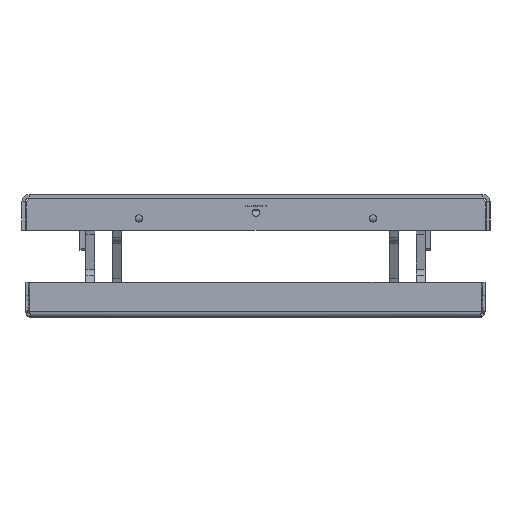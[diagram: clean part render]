
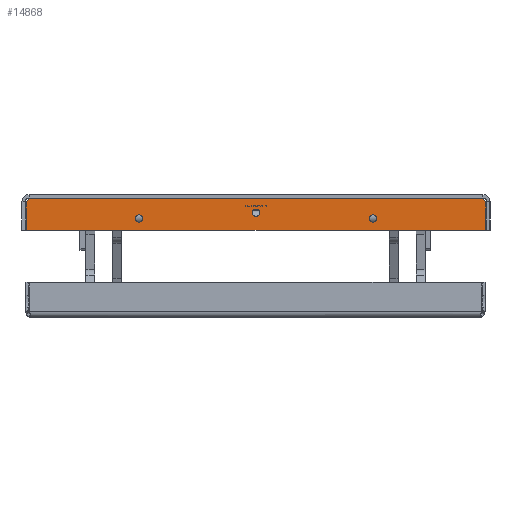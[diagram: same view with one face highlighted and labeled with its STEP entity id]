
A CAD part, left-side view. The second image highlights one B-rep face of the part: STEP entity #14868.
In plain terms, the highlighted planar face has unit normal (-1, 0, 0) as drawn and (0, 0, 1) by its records, which use the part's own axes.
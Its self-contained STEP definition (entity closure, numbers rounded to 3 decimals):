
#537=FACE_BOUND('',#2537,.T.);
#538=FACE_BOUND('',#2538,.T.);
#539=FACE_BOUND('',#2539,.T.);
#877=PLANE('',#16453);
#1589=FACE_OUTER_BOUND('',#2536,.T.);
#2536=EDGE_LOOP('',(#13114,#13115,#13116,#13117,#13118,#13119,#13120,#13121,
#13122,#13123,#13124,#13125));
#2537=EDGE_LOOP('',(#13126));
#2538=EDGE_LOOP('',(#13127));
#2539=EDGE_LOOP('',(#13128));
#3874=LINE('',#25292,#5201);
#3879=LINE('',#25306,#5206);
#3881=LINE('',#25310,#5208);
#3882=LINE('',#25314,#5209);
#3883=LINE('',#25318,#5210);
#3884=LINE('',#25320,#5211);
#5201=VECTOR('',#20322,10.);
#5206=VECTOR('',#20337,10.);
#5208=VECTOR('',#20341,10.);
#5209=VECTOR('',#20344,10.);
#5210=VECTOR('',#20347,10.);
#5211=VECTOR('',#20350,10.);
#5993=CIRCLE('',#16436,1.);
#6003=CIRCLE('',#16449,1.);
#6004=CIRCLE('',#16451,1.);
#6005=CIRCLE('',#16454,1.);
#6006=CIRCLE('',#16455,1.);
#6007=CIRCLE('',#16456,1.);
#6008=CIRCLE('',#16457,6.25);
#6009=CIRCLE('',#16458,6.25);
#6010=CIRCLE('',#16459,6.25);
#7268=VERTEX_POINT('',#25254);
#7269=VERTEX_POINT('',#25255);
#7285=VERTEX_POINT('',#25291);
#7286=VERTEX_POINT('',#25295);
#7287=VERTEX_POINT('',#25299);
#7288=VERTEX_POINT('',#25301);
#7289=VERTEX_POINT('',#25305);
#7290=VERTEX_POINT('',#25309);
#7291=VERTEX_POINT('',#25311);
#7292=VERTEX_POINT('',#25313);
#7293=VERTEX_POINT('',#25315);
#7294=VERTEX_POINT('',#25317);
#7295=VERTEX_POINT('',#25321);
#7296=VERTEX_POINT('',#25323);
#7297=VERTEX_POINT('',#25325);
#9254=EDGE_CURVE('',#7268,#7269,#5993,.T.);
#9272=EDGE_CURVE('',#7269,#7285,#3874,.T.);
#9274=EDGE_CURVE('',#7285,#7286,#6003,.T.);
#9277=EDGE_CURVE('',#7287,#7288,#6004,.T.);
#9279=EDGE_CURVE('',#7289,#7288,#3879,.T.);
#9281=EDGE_CURVE('',#7290,#7268,#3881,.T.);
#9282=EDGE_CURVE('',#7291,#7290,#6005,.T.);
#9283=EDGE_CURVE('',#7291,#7292,#3882,.T.);
#9284=EDGE_CURVE('',#7293,#7292,#6006,.T.);
#9285=EDGE_CURVE('',#7293,#7294,#3883,.T.);
#9286=EDGE_CURVE('',#7289,#7294,#6007,.T.);
#9287=EDGE_CURVE('',#7286,#7287,#3884,.T.);
#9288=EDGE_CURVE('',#7295,#7295,#6008,.T.);
#9289=EDGE_CURVE('',#7296,#7296,#6009,.T.);
#9290=EDGE_CURVE('',#7297,#7297,#6010,.T.);
#13114=ORIENTED_EDGE('',*,*,#9254,.F.);
#13115=ORIENTED_EDGE('',*,*,#9281,.F.);
#13116=ORIENTED_EDGE('',*,*,#9282,.F.);
#13117=ORIENTED_EDGE('',*,*,#9283,.T.);
#13118=ORIENTED_EDGE('',*,*,#9284,.F.);
#13119=ORIENTED_EDGE('',*,*,#9285,.T.);
#13120=ORIENTED_EDGE('',*,*,#9286,.F.);
#13121=ORIENTED_EDGE('',*,*,#9279,.T.);
#13122=ORIENTED_EDGE('',*,*,#9277,.F.);
#13123=ORIENTED_EDGE('',*,*,#9287,.F.);
#13124=ORIENTED_EDGE('',*,*,#9274,.F.);
#13125=ORIENTED_EDGE('',*,*,#9272,.F.);
#13126=ORIENTED_EDGE('',*,*,#9288,.T.);
#13127=ORIENTED_EDGE('',*,*,#9289,.T.);
#13128=ORIENTED_EDGE('',*,*,#9290,.F.);
#14868=ADVANCED_FACE('',(#1589,#537,#538,#539),#877,.T.);
#16436=AXIS2_PLACEMENT_3D('',#25256,#20290,#20291);
#16449=AXIS2_PLACEMENT_3D('',#25296,#20326,#20327);
#16451=AXIS2_PLACEMENT_3D('',#25302,#20332,#20333);
#16453=AXIS2_PLACEMENT_3D('',#25308,#20339,#20340);
#16454=AXIS2_PLACEMENT_3D('',#25312,#20342,#20343);
#16455=AXIS2_PLACEMENT_3D('',#25316,#20345,#20346);
#16456=AXIS2_PLACEMENT_3D('',#25319,#20348,#20349);
#16457=AXIS2_PLACEMENT_3D('',#25322,#20351,#20352);
#16458=AXIS2_PLACEMENT_3D('',#25324,#20353,#20354);
#16459=AXIS2_PLACEMENT_3D('',#25326,#20355,#20356);
#20290=DIRECTION('center_axis',(0.,0.,-1.));
#20291=DIRECTION('ref_axis',(0.707,0.707,0.));
#20322=DIRECTION('',(0.,-1.,0.));
#20326=DIRECTION('center_axis',(0.,0.,-1.));
#20327=DIRECTION('ref_axis',(0.924,-0.383,0.));
#20332=DIRECTION('center_axis',(0.,0.,-1.));
#20333=DIRECTION('ref_axis',(0.383,-0.924,0.));
#20337=DIRECTION('',(1.,0.,0.));
#20339=DIRECTION('center_axis',(0.,0.,1.));
#20340=DIRECTION('ref_axis',(1.,0.,0.));
#20341=DIRECTION('',(1.,0.,0.));
#20342=DIRECTION('center_axis',(0.,0.,-1.));
#20343=DIRECTION('ref_axis',(-0.707,0.707,0.));
#20344=DIRECTION('',(0.,-1.,0.));
#20345=DIRECTION('center_axis',(0.,0.,-1.));
#20346=DIRECTION('ref_axis',(-0.924,-0.383,0.));
#20347=DIRECTION('',(0.707,-0.707,0.));
#20348=DIRECTION('center_axis',(0.,0.,-1.));
#20349=DIRECTION('ref_axis',(-0.383,-0.924,0.));
#20350=DIRECTION('',(-0.707,-0.707,0.));
#20351=DIRECTION('center_axis',(0.,0.,-1.));
#20352=DIRECTION('ref_axis',(1.,0.,0.));
#20353=DIRECTION('center_axis',(0.,0.,-1.));
#20354=DIRECTION('ref_axis',(1.,0.,0.));
#20355=DIRECTION('center_axis',(0.,0.,1.));
#20356=DIRECTION('ref_axis',(-1.,0.,0.));
#25254=CARTESIAN_POINT('',(392.,27.5,6.));
#25255=CARTESIAN_POINT('',(393.,26.5,6.));
#25256=CARTESIAN_POINT('Origin',(392.,26.5,6.));
#25291=CARTESIAN_POINT('',(393.,-21.086,6.));
#25292=CARTESIAN_POINT('',(393.,27.5,6.));
#25295=CARTESIAN_POINT('',(392.707,-21.793,6.));
#25296=CARTESIAN_POINT('Origin',(392.,-21.086,6.));
#25299=CARTESIAN_POINT('',(387.293,-27.207,6.));
#25301=CARTESIAN_POINT('',(386.586,-27.5,6.));
#25302=CARTESIAN_POINT('Origin',(386.586,-26.5,6.));
#25305=CARTESIAN_POINT('',(-386.586,-27.5,6.));
#25306=CARTESIAN_POINT('',(-393.,-27.5,6.));
#25308=CARTESIAN_POINT('Origin',(196.5,0.,6.));
#25309=CARTESIAN_POINT('',(-392.,27.5,6.));
#25310=CARTESIAN_POINT('',(0.,27.5,6.));
#25311=CARTESIAN_POINT('',(-393.,26.5,6.));
#25312=CARTESIAN_POINT('Origin',(-392.,26.5,6.));
#25313=CARTESIAN_POINT('',(-393.,-21.086,6.));
#25314=CARTESIAN_POINT('',(-393.,27.5,6.));
#25315=CARTESIAN_POINT('',(-392.707,-21.793,6.));
#25316=CARTESIAN_POINT('Origin',(-392.,-21.086,6.));
#25317=CARTESIAN_POINT('',(-387.293,-27.207,6.));
#25318=CARTESIAN_POINT('',(-347.75,-66.75,6.));
#25319=CARTESIAN_POINT('Origin',(-386.586,-26.5,6.));
#25320=CARTESIAN_POINT('',(347.75,-66.75,6.));
#25321=CARTESIAN_POINT('',(206.25,7.5,6.));
#25322=CARTESIAN_POINT('Origin',(200.,7.5,6.));
#25323=CARTESIAN_POINT('',(0.,-8.75,6.));
#25324=CARTESIAN_POINT('Origin',(0.,-2.5,6.));
#25325=CARTESIAN_POINT('',(-206.25,7.5,6.));
#25326=CARTESIAN_POINT('Origin',(-200.,7.5,6.));
